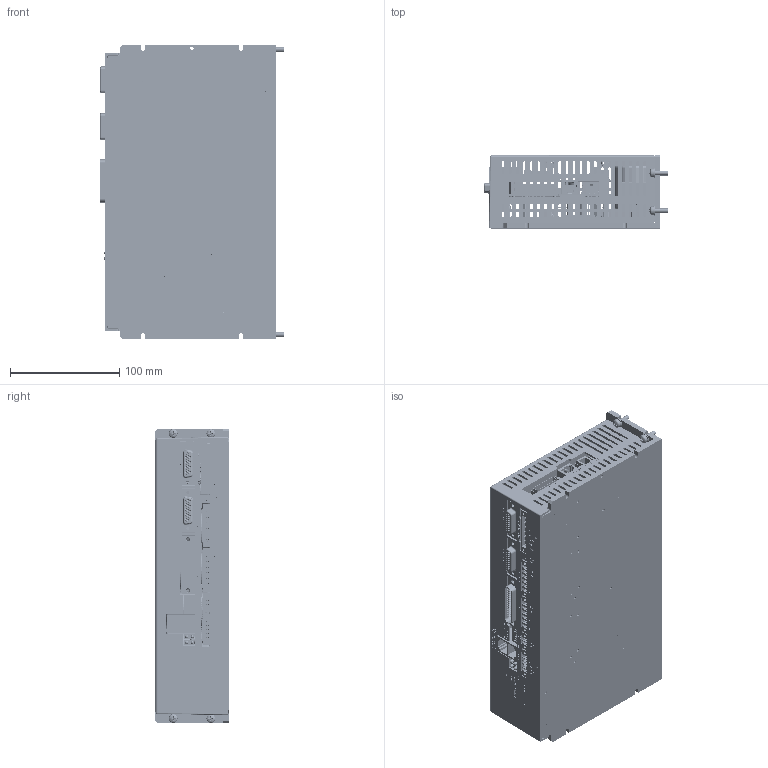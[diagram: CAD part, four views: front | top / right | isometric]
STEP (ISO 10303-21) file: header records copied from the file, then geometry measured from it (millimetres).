
FILE_DESCRIPTION((''),'2;1');
FILE_NAME('D:\Acs\CDMnt-2\24-8-11\CMnt-2.stp','2011-08-25T13:32:41',('brf'),(''),'Autodesk Inventor 2011','Autodesk Inventor 2011','');
FILE_SCHEMA(('AUTOMOTIVE_DESIGN { 1 0 10303 214 1 1 1 1 }'));
Products named in the file (87): DDMnt-2; HE-16300-000; SB-16331-000-LF; PC-16331-000-LF; mc_1.5-5-gf-3; mc_1.5-6-GF-5; CAPACITOR; mc_1.5-2-gf-3; LED+LIGHT PIPE; LTP001-0SW-001 LED PIPE (OPTILED) ; QTLP630C-7 AlGaAs Red; TW-20-03-X-D-220-SM; 2EDGRM-5; GBPC2508W; FSBF10CH60B; SEI-120-02-X-X-AB; C-98-X_C-98-02-GF; SM-AX-H_SM-A9-H; INSL-XXXX-X; SEI-XX_-T Formula; PTFM04BD; 022052021; G2R-1A-E; SB-16330-000-LF; PC-16330-000-LF; HD44-MALE; HD26-FEMALE; Bi-Level Led; DIP SWITCH; TLE-110-01-X-DV-A; C-101-X_Part; SM-AX-H_SM-A7-H; SM-AX-H_SM-A7-H_1; TLE-XX-D; SM-AX-H_SM-A7-H_1_1; SM-AX-H_SM-A7-H_2; SM-AX-H_SM-A7-H_3; SM-AX-H_SM-A7-H_4; SM-AX-H_SM-A7-H_5; 4PIN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
Assembly tree (291 placements, depth 4):
  DDMnt-2
    HE-16300-000
    SB-16331-000-LF
      PC-16331-000-LF
      mc_1.5-5-gf-3
      mc_1.5-6-GF-5  x2
      CAPACITOR  x5
      mc_1.5-2-gf-3
      LED+LIGHT PIPE
        LTP001-0SW-001 LED PIPE (OPTILED) 
        QTLP630C-7 AlGaAs Red
      TW-20-03-X-D-220-SM
      2EDGRM-5
      GBPC2508W
      FSBF10CH60B  x2
      SEI-120-02-X-X-AB
        C-98-X_C-98-02-GF  x20
        SM-AX-H_SM-A9-H  x2
        INSL-XXXX-X  x2
        SEI-XX_-T Formula
      PTFM04BD  x2
      022052021  x2
      G2R-1A-E  x2
    SB-16330-000-LF
      PC-16330-000-LF
      HD44-MALE
      HD26-FEMALE  x2
      Bi-Level Led  x2
      DIP SWITCH
      TLE-110-01-X-DV-A
        C-101-X_Part  x80
        SM-AX-H_SM-A7-H
        SM-AX-H_SM-A7-H_1  x2
        TLE-XX-D  x4
        SM-AX-H_SM-A7-H_1_1
        SM-AX-H_SM-A7-H_2
        SM-AX-H_SM-A7-H_3
        SM-AX-H_SM-A7-H_4
        SM-AX-H_SM-A7-H_5
      4PIN
      RIBBON CONNECTOR
      RJ-45 2 PORTS
      JUMPER
      WURTH RJ-45
        1
        2  x2
        3
        4
        5
        6
        7
        8
        9
        10
        11
        12
        13
        14
        15
        16
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Bounding box: 168.81 x 67 x 270.44 mm (x, y, z)
Volume: 879982.9 mm3; surface area: 569823.5 mm2
Topology: 283 solids, 283 shells, 29268 faces, 76637 edges, 49549 vertices
Faces by surface type: plane 23073, cylinder 3436, bspline 1962, cone 508, torus 236, sphere 53
Full cylindrical faces by diameter (mm): 0.127 x2, 0.15 x4, 0.2 x2, 0.254 x8, 0.264 x1, 0.4 x6, 0.457 x4, 0.5 x120, 0.508 x20, 0.51 x12, 0.6 x10, 0.635 x2, 0.686 x2, 0.75 x44, 0.799 x16, 0.8 x25, 0.85 x36, 0.889 x2, 0.9 x44, 0.991 x2, 1 x54, 1.016 x8, 1.02 x4, 1.07 x4, 1.17 x12, 1.19 x98, 1.2 x38, 1.25 x7, 1.27 x2, 1.3 x12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
Entity records: 675135 total; most frequent: CARTESIAN_POINT 142003, ORIENTED_EDGE 111268, DIRECTION 96371, EDGE_CURVE 55634, VECTOR 47401, LINE 47401, VERTEX_POINT 36427, EDGE_LOOP 26132
